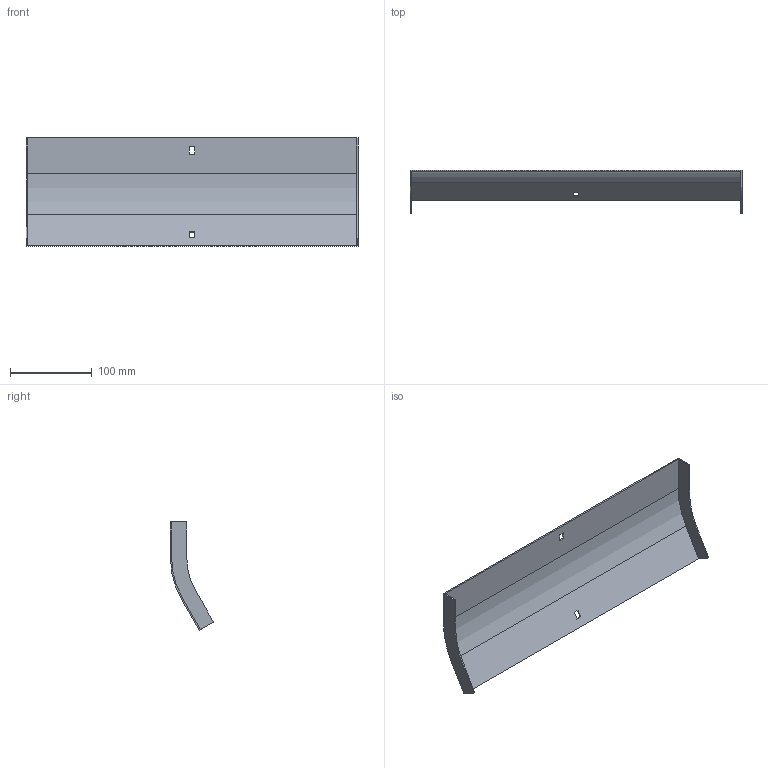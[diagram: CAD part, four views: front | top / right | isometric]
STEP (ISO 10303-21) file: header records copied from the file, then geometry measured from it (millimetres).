
FILE_DESCRIPTION (( 'STEP AP214' ), '1' );
FILE_NAME ('35G1B400.step', '2025-02-21T12:41:32', ( '' ), ( '' ), 'SwSTEP 2.0', 'SolidWorks 2023', '' );
FILE_SCHEMA (( 'AUTOMOTIVE_DESIGN' ));
Length unit declared in the file: millimetre
Products named in the file (1): 35G1B400
Bounding box: 407 x 52.92 x 132.86 mm (x, y, z)
Volume: 93275.1 mm3; surface area: 126185 mm2
Topology: 1 solids, 1 shells, 26 faces, 72 edges, 48 vertices
Faces by surface type: plane 22, cylinder 4
Entity records: 855 total; most frequent: CARTESIAN_POINT 147, ORIENTED_EDGE 144, DIRECTION 134, EDGE_CURVE 72, VECTOR 64, LINE 64, VERTEX_POINT 48, AXIS2_PLACEMENT_3D 35
